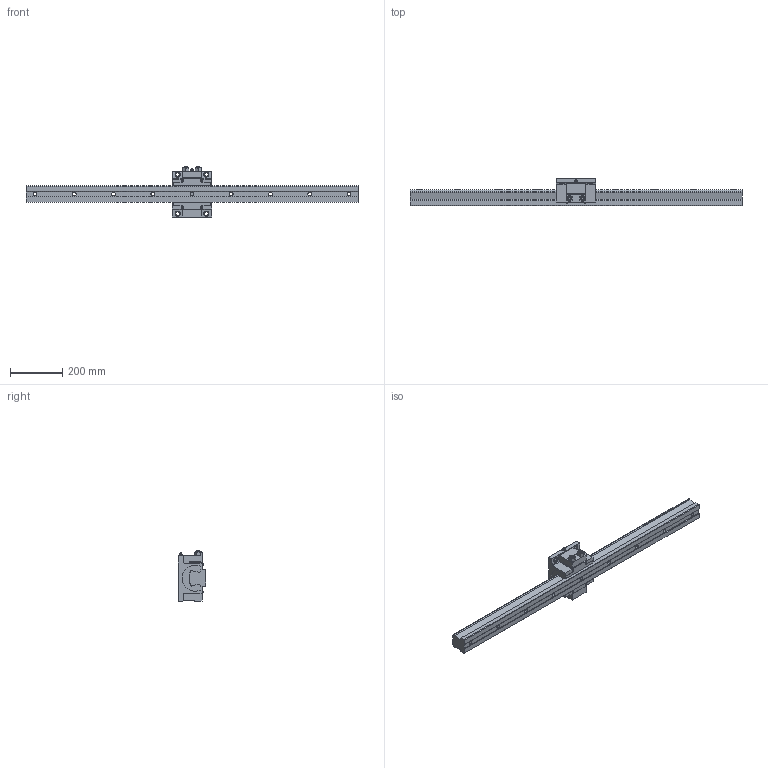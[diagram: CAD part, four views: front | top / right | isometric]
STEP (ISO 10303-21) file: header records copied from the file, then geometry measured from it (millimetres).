
FILE_DESCRIPTION(/* description */ ('STEP AP203'),/* implementation_level */ '2;1');
FILE_NAME(/* name */ 'NSR70TBC1-1270L_G35_0_A-PT18_560_0_0_0',/* time_stamp */ '2024-05-21T12:12:42+02:00',/* author */ ('License CC BY-ND 4.0'),/* organization */ ('CADENAS'),/* preprocessor_version */ 'ST-DEVELOPER v19.3',/* originating_system */ 'PARTsolutions',/* authorisation */ ' ');
FILE_SCHEMA (('CONFIG_CONTROL_DESIGN'));
Length unit declared in the file: millimetre
Products named in the file (3): NSR70TBC1-1270L_G35_0_A-PT18_560_0_0_0; NSR70TBC127035 Track; NSR70TBC
Assembly tree (2 placements, depth 2):
  NSR70TBC1-1270L_G35_0_A-PT18_560_0_0_0
    NSR70TBC127035 Track
    NSR70TBC
Bounding box: 1270 x 105 x 191.5 mm (x, y, z)
Volume: 5852748.6 mm3; surface area: 487656.8 mm2
Topology: 2 solids, 2 shells, 251 faces, 681 edges, 458 vertices
Faces by surface type: plane 156, cylinder 58, cone 27, torus 8, sphere 2
Full cylindrical faces by diameter (mm): 4.5 x4, 14 x13, 16 x4, 20 x13
Entity records: 7651 total; most frequent: CARTESIAN_POINT 1488, ORIENTED_EDGE 1218, DIRECTION 1210, EDGE_CURVE 609, VERTEX_POINT 433, AXIS2_PLACEMENT_3D 407, LINE 396, VECTOR 396
